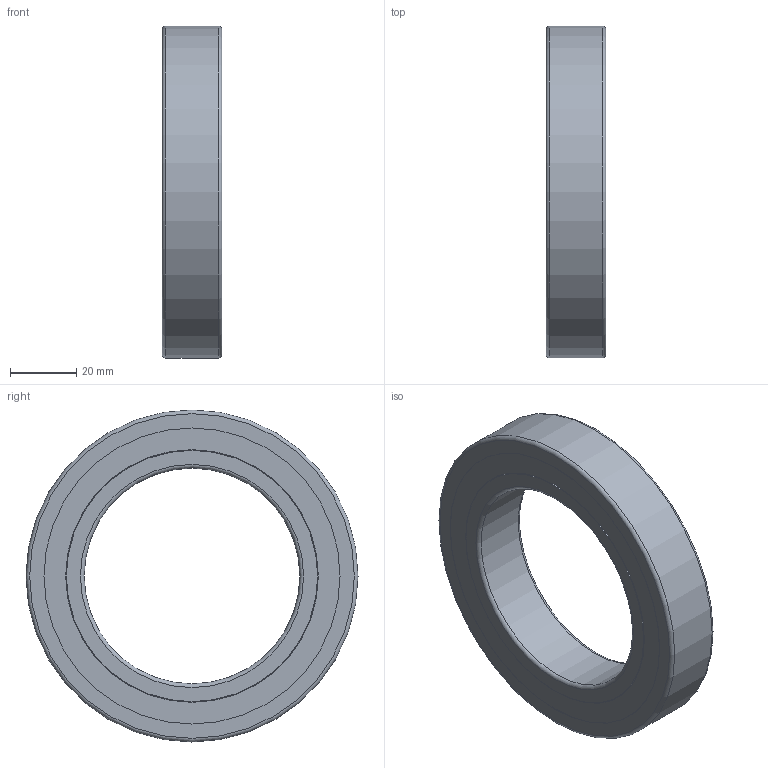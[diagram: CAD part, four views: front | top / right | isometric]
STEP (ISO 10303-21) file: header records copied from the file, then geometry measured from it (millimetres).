
FILE_DESCRIPTION(/* description */ (''),/* implementation_level */ '2;1');
FILE_NAME(/* name */ 'KH_6013_TA.step',/* time_stamp */ '2013-03-07T07:04:30+01:00',/* author */ ('Marian'),/* organization */ ('GMN'),/* preprocessor_version */ 'ST-DEVELOPER v11',/* originating_system */ 'SIEMENS UGS NX 6.0',/* authorisation */ '');
FILE_SCHEMA (('CONFIG_CONTROL_DESIGN'));
Length unit declared in the file: millimetre
Products named in the file (1): KH_6013_TA
Bounding box: 18 x 100 x 100 mm (x, y, z)
Volume: 65220.3 mm3; surface area: 44371.6 mm2
Topology: 30 solids, 30 shells, 82 faces, 206 edges, 134 vertices
Faces by surface type: cylinder 38, sphere 25, plane 12, torus 6, cone 1
Full cylindrical faces by diameter (mm): 8.138 x25, 65 x1, 75.7 x1, 76.1 x1, 76.9 x1, 77.3 x1, 81.798 x1, 86.696 x1, 87.096 x1, 89.2 x2, 92.4 x2, 100 x1
Entity records: 4592 total; most frequent: CARTESIAN_POINT 3122, DIRECTION 230, FACE_BOUND 189, EDGE_LOOP 164, ORIENTED_EDGE 164, AXIS2_PLACEMENT_3D 115, VERTEX_POINT 107, ADVANCED_FACE 82
